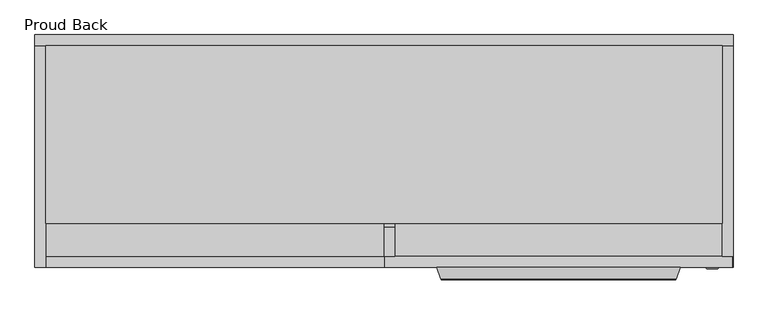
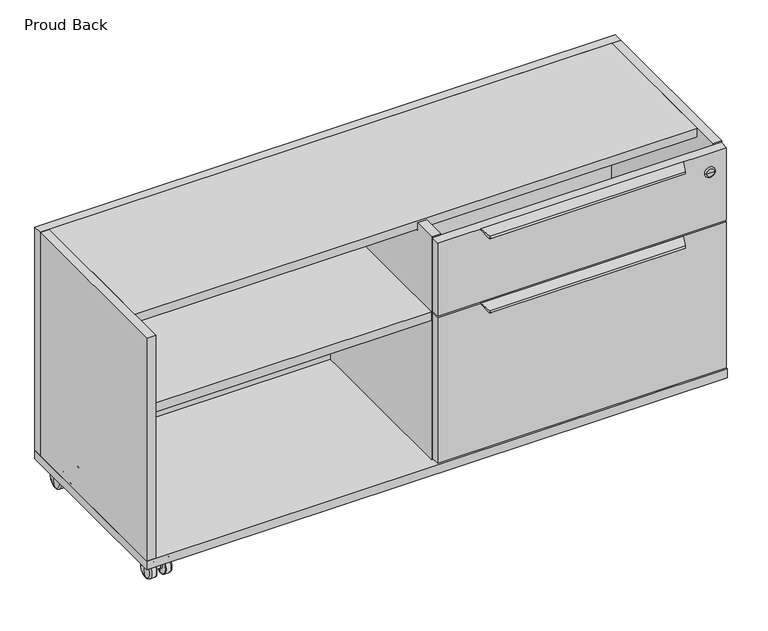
"""IFC4 building model written with IfcOpenShell, lengths in millimetres: furniture geometry, Haworth_BeHold_Modular_MobileCredenza : Proud Back."""

from ifc_helpers import new_model, si_unit, point, frame, frame_2d, origin, place, context, project, spatial, polyline, circle_curve, ellipse_curve, trimmed, segment, composite_curve, outline, extrude, source, transform, mapped, element, save
from ifc_brep_helpers import plane_surface, cylinder_surface, revolved_surface, advanced_brep


def proud_back_b5e9429d(model_context):
    return source(origin(), model_context, "Body", "SolidModel", [
        advanced_brep(
        [(-750.3713166, -461.8252991, 2.8741812), (-750.3713166, -461.8252991, 34.1258208), (-751.97128, -461.8252991, 18.500001), (-746.8682448, -461.8252991, 1.5e-06), (-746.8682448, -461.8252991, 37.0000005), (-736.6629121, -461.8252991, 1.5e-06), (-736.6629121, -461.8252991, 37.0000005), (-735.4722871, -461.8252991, 1.1906265), (-735.4722871, -461.8252991, 35.8093755), (-735.4722871, -461.8252991, 11.3500014), (-735.4722871, -461.8252991, 25.6500006), (-731.9725007, -461.8252991, 11.3500014), (-731.9725007, -461.8252991, 25.6500006), (-731.9725007, -461.8252991, 13.0457396), (-731.9725007, -461.8252991, 23.9542625), (-721.5719727, -461.8252991, 13.0457396), (-721.5719727, -461.8252991, 23.9542625), (-721.5719727, -461.8252991, 11.3500014), (-721.5719727, -461.8252991, 25.6500006), (-718.0721863, -461.8252991, 11.3500014), (-718.0721863, -461.8252991, 25.6500006), (-718.0721863, -461.8252991, 1.1906265), (-718.0721863, -461.8252991, 35.8093755), (-716.8815613, -461.8252991, 1.5e-06), (-716.8815613, -461.8252991, 37.0000005), (-706.6951696, -461.8252991, 1.5e-06), (-706.6951696, -461.8252991, 37.0000005), (-703.167893, -461.8252991, 2.894786), (-703.167893, -461.8252991, 34.105216), (-701.5720307, -461.8252991, 18.500001)],
        [
            (0, 1, circle_curve(frame((-750.3713166, -461.8252991, 18.500001), z_axis=(-1.0, 0.0, 0.0), x_axis=(0.0, 0.0, 1.0)), 15.6258198)),
            (1, 2, circle_curve(frame((-668.791693, -461.8252991, 17.8778751), z_axis=(0.0, -1.0, 0.0), x_axis=(-1.0, 0.0, 0.0)), 83.1819135)),
            (2, 0, circle_curve(frame((-668.791693, -461.8252991, 19.1221269), z_axis=(0.0, -1.0, 0.0), x_axis=(-1.0, 0.0, 0.0)), 83.1819135)),
            (1, 0, circle_curve(frame((-750.3713166, -461.8252991, 18.500001), z_axis=(-1.0, 0.0, 0.0), x_axis=(0.0, 0.0, 1.0)), 15.6258198)),
            (3, 4, circle_curve(frame((-746.8682448, -461.8252991, 18.500001), z_axis=(-1.0, 0.0, 0.0), x_axis=(0.0, 0.0, 1.0)), 18.4999995)),
            (4, 1, circle_curve(frame((-746.8682448, -461.8252991, 33.4281255), z_axis=(0.0, -1.0, 0.0), x_axis=(1.0, 0.0, 0.0)), 3.571875)),
            (0, 3, circle_curve(frame((-746.8682448, -461.8252991, 3.5718765), z_axis=(0.0, -1.0, 0.0), x_axis=(1.0, 0.0, 0.0)), 3.571875)),
            (4, 3, circle_curve(frame((-746.8682448, -461.8252991, 18.500001), z_axis=(-1.0, 0.0, 0.0), x_axis=(0.0, 0.0, 1.0)), 18.4999995)),
            (5, 6, circle_curve(frame((-736.6629121, -461.8252991, 18.500001), z_axis=(-1.0, 0.0, 0.0), x_axis=(0.0, 0.0, 1.0)), 18.4999995)),
            (6, 4),
            (3, 5),
            (6, 5, circle_curve(frame((-736.6629121, -461.8252991, 18.500001), z_axis=(-1.0, 0.0, 0.0), x_axis=(0.0, 0.0, 1.0)), 18.4999995)),
            (7, 8, circle_curve(frame((-735.4722871, -461.8252991, 18.500001), z_axis=(-1.0, 0.0, 0.0), x_axis=(0.0, 0.0, 1.0)), 17.3093745)),
            (8, 6, circle_curve(frame((-736.6629121, -461.8252991, 35.8093755), z_axis=(0.0, -1.0, 0.0), x_axis=(1.0, 0.0, 0.0)), 1.190625)),
            (5, 7, circle_curve(frame((-736.6629121, -461.8252991, 1.1906265), z_axis=(0.0, -1.0, 0.0), x_axis=(1.0, 0.0, 0.0)), 1.190625)),
            (8, 7, circle_curve(frame((-735.4722871, -461.8252991, 18.500001), z_axis=(-1.0, 0.0, 0.0), x_axis=(0.0, 0.0, 1.0)), 17.3093745)),
            (9, 10, circle_curve(frame((-735.4722871, -461.8252991, 18.500001), z_axis=(-1.0, 0.0, 0.0), x_axis=(0.0, 0.0, 1.0)), 7.1499996)),
            (10, 8),
            (7, 9),
            (10, 9, circle_curve(frame((-735.4722871, -461.8252991, 18.500001), z_axis=(-1.0, 0.0, 0.0), x_axis=(0.0, 0.0, 1.0)), 7.1499996)),
            (11, 12, circle_curve(frame((-731.9725007, -461.8252991, 18.500001), z_axis=(-1.0, 0.0, 0.0), x_axis=(0.0, 0.0, 1.0)), 7.1499996)),
            (12, 10),
            (9, 11),
            (12, 11, circle_curve(frame((-731.9725007, -461.8252991, 18.500001), z_axis=(-1.0, 0.0, 0.0), x_axis=(0.0, 0.0, 1.0)), 7.1499996)),
            (13, 14, circle_curve(frame((-731.9725007, -461.8252991, 18.500001), z_axis=(-1.0, 0.0, 0.0), x_axis=(0.0, 0.0, 1.0)), 5.4542615)),
            (14, 12),
            (11, 13),
            (14, 13, circle_curve(frame((-731.9725007, -461.8252991, 18.500001), z_axis=(-1.0, 0.0, 0.0), x_axis=(0.0, 0.0, 1.0)), 5.4542615)),
            (15, 16, circle_curve(frame((-721.5719727, -461.8252991, 18.500001), z_axis=(-1.0, 0.0, 0.0), x_axis=(0.0, 0.0, 1.0)), 5.4542615)),
            (16, 14),
            (13, 15),
            (16, 15, circle_curve(frame((-721.5719727, -461.8252991, 18.500001), z_axis=(-1.0, 0.0, 0.0), x_axis=(0.0, 0.0, 1.0)), 5.4542615)),
            (17, 18, circle_curve(frame((-721.5719727, -461.8252991, 18.500001), z_axis=(-1.0, 0.0, 0.0), x_axis=(0.0, 0.0, 1.0)), 7.1499996)),
            (18, 16),
            (15, 17),
            (18, 17, circle_curve(frame((-721.5719727, -461.8252991, 18.500001), z_axis=(-1.0, 0.0, 0.0), x_axis=(0.0, 0.0, 1.0)), 7.1499996)),
            (19, 20, circle_curve(frame((-718.0721863, -461.8252991, 18.500001), z_axis=(-1.0, 0.0, 0.0), x_axis=(0.0, 0.0, 1.0)), 7.1499996)),
            (20, 18),
            (17, 19),
            (20, 19, circle_curve(frame((-718.0721863, -461.8252991, 18.500001), z_axis=(-1.0, 0.0, 0.0), x_axis=(0.0, 0.0, 1.0)), 7.1499996)),
            (21, 22, circle_curve(frame((-718.0721863, -461.8252991, 18.500001), z_axis=(-1.0, 0.0, 0.0), x_axis=(0.0, 0.0, 1.0)), 17.3093745)),
            (22, 20),
            (19, 21),
            (22, 21, circle_curve(frame((-718.0721863, -461.8252991, 18.500001), z_axis=(-1.0, 0.0, 0.0), x_axis=(0.0, 0.0, 1.0)), 17.3093745)),
            (23, 24, circle_curve(frame((-716.8815613, -461.8252991, 18.500001), z_axis=(-1.0, 0.0, 0.0), x_axis=(0.0, 0.0, 1.0)), 18.4999995)),
            (24, 22, circle_curve(frame((-716.8815613, -461.8252991, 35.8093755), z_axis=(0.0, -1.0, 0.0), x_axis=(1.0, 0.0, 0.0)), 1.190625)),
            (21, 23, circle_curve(frame((-716.8815613, -461.8252991, 1.1906265), z_axis=(0.0, -1.0, 0.0), x_axis=(1.0, 0.0, 0.0)), 1.190625)),
            (24, 23, circle_curve(frame((-716.8815613, -461.8252991, 18.500001), z_axis=(-1.0, 0.0, 0.0), x_axis=(0.0, 0.0, 1.0)), 18.4999995)),
            (25, 26, circle_curve(frame((-706.6951696, -461.8252991, 18.500001), z_axis=(-1.0, 0.0, 0.0), x_axis=(0.0, 0.0, 1.0)), 18.4999995)),
            (26, 24),
            (23, 25),
            (26, 25, circle_curve(frame((-706.6951696, -461.8252991, 18.500001), z_axis=(-1.0, 0.0, 0.0), x_axis=(0.0, 0.0, 1.0)), 18.4999995)),
            (27, 28, circle_curve(frame((-703.167893, -461.8252991, 18.500001), z_axis=(-1.0, 0.0, 0.0), x_axis=(0.0, 0.0, 1.0)), 15.605215)),
            (28, 26, circle_curve(frame((-706.6951696, -461.8252991, 33.4036261), z_axis=(0.0, -1.0, 0.0), x_axis=(1.0, 0.0, 0.0)), 3.5963744)),
            (25, 27, circle_curve(frame((-706.6951696, -461.8252991, 3.5963759), z_axis=(0.0, -1.0, 0.0), x_axis=(1.0, 0.0, 0.0)), 3.5963744)),
            (28, 27, circle_curve(frame((-703.167893, -461.8252991, 18.500001), z_axis=(-1.0, 0.0, 0.0), x_axis=(0.0, 0.0, 1.0)), 15.605215)),
            (29, 28, circle_curve(frame((-784.7516177, -461.8252991, 17.8778751), z_axis=(0.0, -1.0, 0.0), x_axis=(1.0, 0.0, 0.0)), 83.1819135)),
            (27, 29, circle_curve(frame((-784.7516177, -461.8252991, 19.1221269), z_axis=(0.0, -1.0, 0.0), x_axis=(1.0, 0.0, 0.0)), 83.1819135)),
        ],
        [
            revolved_surface(trimmed(ellipse_curve(frame((-668.791693, -461.8252991, 17.8778751), z_axis=(0.0, 1.0, 0.0), x_axis=(-1.0, 0.0, 0.0)), 83.1819135, 83.1819135), [point((-751.97128, -461.8252991, 18.500001))], [point((-750.3713166, -461.8252991, 34.1258208))], True, "CARTESIAN"), (-775.2830707, -461.8252991, 18.500001), (1.0, 0.0, 0.0)),
            revolved_surface(trimmed(ellipse_curve(frame((-746.8682448, -461.8252991, 33.4281255), z_axis=(0.0, 1.0, 0.0), x_axis=(1.0, 0.0, 0.0)), 3.571875, 3.571875), [point((-750.3713166, -461.8252991, 34.1258208))], [point((-746.8682448, -461.8252991, 37.0000005))], True, "CARTESIAN"), (-775.2830707, -461.8252991, 18.500001), (1.0, 0.0, 0.0)),
            cylinder_surface(frame((-775.2830707, -461.8252991, 18.500001), z_axis=(1.0, 0.0, 0.0), x_axis=(0.0, 0.0, 1.0)), 18.4999995),
            revolved_surface(trimmed(ellipse_curve(frame((-736.6629121, -461.8252991, 35.8093755), z_axis=(0.0, 1.0, 0.0), x_axis=(1.0, 0.0, 0.0)), 1.190625, 1.190625), [point((-736.6629121, -461.8252991, 37.0000005))], [point((-735.4722871, -461.8252991, 35.8093755))], True, "CARTESIAN"), (-775.2830707, -461.8252991, 18.500001), (1.0, 0.0, 0.0)),
            plane_surface(frame((-735.4722871, -461.8252991, 18.500001), z_axis=(1.0, 0.0, 0.0), x_axis=(0.0, 0.0, 1.0))),
            cylinder_surface(frame((-775.2830707, -461.8252991, 18.500001), z_axis=(1.0, 0.0, 0.0), x_axis=(0.0, 0.0, 1.0)), 7.1499996),
            plane_surface(frame((-731.9725007, -461.8252991, 18.500001), z_axis=(1.0, 0.0, 0.0), x_axis=(0.0, 0.0, 1.0))),
            cylinder_surface(frame((-775.2830707, -461.8252991, 18.500001), z_axis=(1.0, 0.0, 0.0), x_axis=(0.0, 0.0, 1.0)), 5.4542615),
            plane_surface(frame((-721.5719727, -461.8252991, 18.500001), z_axis=(-1.0, 0.0, 0.0), x_axis=(0.0, 0.0, 1.0))),
            plane_surface(frame((-718.0721863, -461.8252991, 18.500001), z_axis=(-1.0, 0.0, 0.0), x_axis=(0.0, 0.0, 1.0))),
            revolved_surface(trimmed(ellipse_curve(frame((-716.8815613, -461.8252991, 35.8093755), z_axis=(0.0, 1.0, 0.0), x_axis=(1.0, 0.0, 0.0)), 1.190625, 1.190625), [point((-718.0721863, -461.8252991, 35.8093755))], [point((-716.8815613, -461.8252991, 37.0000005))], True, "CARTESIAN"), (-775.2830707, -461.8252991, 18.500001), (1.0, 0.0, 0.0)),
            revolved_surface(trimmed(ellipse_curve(frame((-706.6951696, -461.8252991, 33.4036261), z_axis=(0.0, 1.0, 0.0), x_axis=(1.0, 0.0, 0.0)), 3.5963744, 3.5963744), [point((-706.6951696, -461.8252991, 37.0000005))], [point((-703.167893, -461.8252991, 34.105216))], True, "CARTESIAN"), (-775.2830707, -461.8252991, 18.500001), (1.0, 0.0, 0.0)),
            revolved_surface(trimmed(ellipse_curve(frame((-784.7516177, -461.8252991, 17.8778751), z_axis=(0.0, 1.0, 0.0), x_axis=(1.0, 0.0, 0.0)), 83.1819135, 83.1819135), [point((-703.167893, -461.8252991, 34.105216))], [point((-701.5720307, -461.8252991, 18.500001))], True, "CARTESIAN"), (-775.2830707, -461.8252991, 18.500001), (1.0, 0.0, 0.0)),
        ],
        [
            (0, [[1, 2, 3]]),
            (0, [[4, -3, -2]]),
            (1, [[5, 6, -1, 7]]),
            (1, [[8, -7, -4, -6]]),
            (2, [[9, 10, -5, 11]]),
            (2, [[12, -11, -8, -10]]),
            (3, [[13, 14, -9, 15]]),
            (3, [[16, -15, -12, -14]]),
            (4, [[17, 18, -13, 19]]),
            (4, [[20, -19, -16, -18]]),
            (5, [[21, 22, -17, 23]]),
            (5, [[24, -23, -20, -22]]),
            (6, [[25, 26, -21, 27]]),
            (6, [[28, -27, -24, -26]]),
            (7, [[29, 30, -25, 31]]),
            (7, [[32, -31, -28, -30]]),
            (8, [[33, 34, -29, 35]]),
            (8, [[36, -35, -32, -34]]),
            (5, [[37, 38, -33, 39]]),
            (5, [[40, -39, -36, -38]]),
            (9, [[41, 42, -37, 43]]),
            (9, [[44, -43, -40, -42]]),
            (10, [[45, 46, -41, 47]]),
            (10, [[48, -47, -44, -46]]),
            (2, [[49, 50, -45, 51]]),
            (2, [[52, -51, -48, -50]]),
            (11, [[53, 54, -49, 55]]),
            (11, [[56, -55, -52, -54]]),
            (12, [[57, -53, 58]]),
            (12, [[-58, -56, -57]]),
        ],
    ),
        extrude(outline(composite_curve([segment(trimmed(circle_curve(frame_2d((-706.828299, -109.3696808)), 5.55625), [point((-706.828299, -103.8134308))], [point((-701.272049, -109.3696808))], False, "CARTESIAN"), True, "CONTINUOUS"), segment(polyline([(-701.272049, -109.3696808), (-701.272049, -128.7139717)]), True, "CONTINUOUS"), segment(trimmed(circle_curve(frame_2d((-706.8708092, -128.7139717)), 5.5987602), [point((-701.272049, -128.7139717))], [point((-706.8708092, -134.3127319))], False, "CARTESIAN"), True, "CONTINUOUS"), segment(polyline([(-706.8708092, -134.3127319), (-746.7161744, -134.3127319)]), True, "CONTINUOUS"), segment(trimmed(circle_curve(frame_2d((-746.7161744, -128.7564819)), 5.55625), [point((-746.7161744, -134.3127319))], [point((-752.2724244, -128.7564819))], False, "CARTESIAN"), True, "CONTINUOUS"), segment(polyline([(-752.2724244, -128.7564819), (-752.2724244, -109.3696808)]), True, "CONTINUOUS"), segment(trimmed(circle_curve(frame_2d((-746.7161744, -109.3696808)), 5.55625), [point((-752.2724244, -109.3696808))], [point((-746.7161744, -103.8134308))], False, "CARTESIAN"), True, "CONTINUOUS"), segment(polyline([(-746.7161744, -103.8134308), (-706.828299, -103.8134308)]), True, "CONTINUOUS")], self_intersect=False)), frame((0.0, 0.0, 41.1500016), z_axis=(0.0, 0.0, 1.0), x_axis=(1.0, 0.0, 0.0)), (0.0, 0.0, 1.0), 3.2999984),
        extrude(outline(composite_curve([segment(trimmed(circle_curve(frame_2d((-116.2049225, 10.0187513)), 3.96875), [point((-112.2361725, 10.0187513))], [point((-116.2049225, 6.0500013))], False, "CARTESIAN"), True, "CONTINUOUS"), segment(polyline([(-116.2049225, 6.0500013), (-147.8630676, 6.0500013), (-147.8630676, 22.3915745)]), True, "CONTINUOUS"), segment(trimmed(circle_curve(frame_2d((-106.5147413, 22.3915745)), 41.3483263), [point((-147.8630676, 22.3915745))], [point((-147.745118, 25.5124927))], False, "CARTESIAN"), True, "CONTINUOUS"), segment(polyline([(-147.745118, 25.5124927), (-147.4391605, 29.5544899)]), True, "CONTINUOUS"), segment(trimmed(circle_curve(frame_2d((-145.6233868, 29.4170456)), 1.8209681), [point((-147.4391605, 29.5544899))], [point((-146.9906667, 30.6197387))], False, "CARTESIAN"), True, "CONTINUOUS"), segment(trimmed(circle_curve(frame_2d((-133.2127991, 18.5003868)), 18.3496138), [point((-146.9906667, 30.6197387))], [point((-133.2127991, 36.8500006))], False, "CARTESIAN"), True, "CONTINUOUS"), segment(polyline([(-133.2127991, 36.8500006), (-127.1631683, 36.8500006), (-127.1631683, 32.8500017), (-112.2361725, 32.8500017), (-112.2361725, 10.0187513)]), True, "CONTINUOUS")], self_intersect=False)), frame((-733.7712281, 0.0, 0.0), z_axis=(1.0, 0.0, 0.0), x_axis=(0.0, 1.0, 0.0)), (0.0, 0.0, 1.0), 13.9991455),
        advanced_brep(
        [(-731.4457886, -119.0625, 32.8500017), (-722.097522, -119.0625, 32.8500017), (-726.7716553, -119.0625, 32.8500017), (-731.4457886, -119.0625, 34.6500009), (-722.097522, -119.0625, 34.6500009), (-732.995694, -119.0625, 34.6500009), (-720.5476166, -119.0625, 34.6500009), (-733.842154, -119.0625, 38.6499997), (-719.7011567, -119.0625, 38.6499997), (-731.2713807, -119.0625, 38.6499997), (-722.27193, -119.0625, 38.6499997), (-737.770984, -119.0625, 41.1500016), (-715.7723267, -119.0625, 41.1500016), (-726.7716553, -119.0625, 41.1500016)],
        [
            (0, 1, circle_curve(frame((-726.7716553, -119.0625, 32.8500017), z_axis=(0.0, 0.0, -1.0), x_axis=(1.0, 0.0, 0.0)), 4.6741333)),
            (1, 2),
            (2, 0),
            (1, 0, circle_curve(frame((-726.7716553, -119.0625, 32.8500017), z_axis=(0.0, 0.0, -1.0), x_axis=(1.0, 0.0, 0.0)), 4.6741333)),
            (3, 4, circle_curve(frame((-726.7716553, -119.0625, 34.6500009), z_axis=(0.0, 0.0, -1.0), x_axis=(1.0, 0.0, 0.0)), 4.6741333)),
            (4, 1),
            (0, 3),
            (4, 3, circle_curve(frame((-726.7716553, -119.0625, 34.6500009), z_axis=(0.0, 0.0, -1.0), x_axis=(1.0, 0.0, 0.0)), 4.6741333)),
            (5, 6, circle_curve(frame((-726.7716553, -119.0625, 34.6500009), z_axis=(0.0, 0.0, -1.0), x_axis=(1.0, 0.0, 0.0)), 6.2240387)),
            (6, 4),
            (3, 5),
            (6, 5, circle_curve(frame((-726.7716553, -119.0625, 34.6500009), z_axis=(0.0, 0.0, -1.0), x_axis=(1.0, 0.0, 0.0)), 6.2240387)),
            (7, 8, circle_curve(frame((-726.7716553, -119.0625, 38.6499997), z_axis=(0.0, 0.0, -1.0), x_axis=(1.0, 0.0, 0.0)), 7.0704987)),
            (8, 6, circle_curve(frame((-722.2700095, -119.0625, 37.1040464), z_axis=(0.0, 1.0, 0.0), x_axis=(1.0, 0.0, 0.0)), 2.9981622)),
            (5, 7, circle_curve(frame((-731.2733011, -119.0625, 37.1040464), z_axis=(0.0, 1.0, 0.0), x_axis=(-1.0, 0.0, 0.0)), 2.9981622)),
            (8, 7, circle_curve(frame((-726.7716553, -119.0625, 38.6499997), z_axis=(0.0, 0.0, -1.0), x_axis=(1.0, 0.0, 0.0)), 7.0704987)),
            (9, 10, circle_curve(frame((-726.7716553, -119.0625, 38.6499997), z_axis=(0.0, 0.0, -1.0), x_axis=(1.0, 0.0, 0.0)), 4.4997253)),
            (10, 8),
            (7, 9),
            (10, 9, circle_curve(frame((-726.7716553, -119.0625, 38.6499997), z_axis=(0.0, 0.0, -1.0), x_axis=(1.0, 0.0, 0.0)), 4.4997253)),
            (11, 12, circle_curve(frame((-726.7716553, -119.0625, 41.1500016), z_axis=(0.0, 0.0, -1.0), x_axis=(1.0, 0.0, 0.0)), 10.9993286)),
            (12, 10),
            (9, 11),
            (12, 11, circle_curve(frame((-726.7716553, -119.0625, 41.1500016), z_axis=(0.0, 0.0, -1.0), x_axis=(1.0, 0.0, 0.0)), 10.9993286)),
            (13, 12),
            (11, 13),
        ],
        [
            plane_surface(frame((-726.7716553, -119.0625, 32.8500017), z_axis=(0.0, 0.0, -1.0), x_axis=(1.0, 0.0, 0.0))),
            cylinder_surface(frame((-726.7716553, -119.0625, 53.2629664), z_axis=(0.0, 0.0, 1.0), x_axis=(1.0, 0.0, 0.0)), 4.6741333),
            plane_surface(frame((-726.7716553, -119.0625, 34.6500009), z_axis=(0.0, 0.0, -1.0), x_axis=(1.0, 0.0, 0.0))),
            revolved_surface(trimmed(ellipse_curve(frame((-722.2700095, -119.0625, 37.1040464), z_axis=(0.0, -1.0, 0.0), x_axis=(1.0, 0.0, 0.0)), 2.9981622, 2.9981622), [point((-720.5476166, -119.0625, 34.6500009))], [point((-719.7011567, -119.0625, 38.6499997))], True, "CARTESIAN"), (-726.7716553, -119.0625, 53.2629664), (0.0, 0.0, 1.0)),
            plane_surface(frame((-726.7716553, -119.0625, 38.6499997), z_axis=(0.0, 0.0, 1.0), x_axis=(1.0, 0.0, 0.0))),
            revolved_surface(polyline([(-722.27193, -119.0625, 38.6499997), (-715.7723267, -119.0625, 41.1500016)]), (-726.7716553, -119.0625, 53.2629664), (0.0, 0.0, 1.0)),
            plane_surface(frame((-726.7716553, -119.0625, 41.1500016), z_axis=(0.0, 0.0, 1.0), x_axis=(1.0, 0.0, 0.0))),
        ],
        [
            (0, [[1, 2, 3]]),
            (0, [[4, -3, -2]]),
            (1, [[5, 6, -1, 7]]),
            (1, [[8, -7, -4, -6]]),
            (2, [[9, 10, -5, 11]]),
            (2, [[12, -11, -8, -10]]),
            (3, [[13, 14, -9, 15]]),
            (3, [[16, -15, -12, -14]]),
            (4, [[17, 18, -13, 19]]),
            (4, [[20, -19, -16, -18]]),
            (5, [[21, 22, -17, 23]]),
            (5, [[24, -23, -20, -22]]),
            (6, [[25, -21, 26]]),
            (6, [[-26, -24, -25]]),
        ],
    ),
        advanced_brep(
        [(-750.3713166, -133.2127991, 2.8741812), (-750.3713166, -133.2127991, 34.1258208), (-751.97128, -133.2127991, 18.500001), (-746.8682448, -133.2127991, 1.5e-06), (-746.8682448, -133.2127991, 37.0000005), (-736.6629121, -133.2127991, 1.5e-06), (-736.6629121, -133.2127991, 37.0000005), (-735.4722871, -133.2127991, 1.1906265), (-735.4722871, -133.2127991, 35.8093755), (-735.4722871, -133.2127991, 11.3500014), (-735.4722871, -133.2127991, 25.6500006), (-731.9725007, -133.2127991, 11.3500014), (-731.9725007, -133.2127991, 25.6500006), (-731.9725007, -133.2127991, 13.0457396), (-731.9725007, -133.2127991, 23.9542625), (-721.5719727, -133.2127991, 13.0457396), (-721.5719727, -133.2127991, 23.9542625), (-721.5719727, -133.2127991, 11.3500014), (-721.5719727, -133.2127991, 25.6500006), (-718.0721863, -133.2127991, 11.3500014), (-718.0721863, -133.2127991, 25.6500006), (-718.0721863, -133.2127991, 1.1906265), (-718.0721863, -133.2127991, 35.8093755), (-716.8815613, -133.2127991, 1.5e-06), (-716.8815613, -133.2127991, 37.0000005), (-706.6951696, -133.2127991, 1.5e-06), (-706.6951696, -133.2127991, 37.0000005), (-703.167893, -133.2127991, 2.894786), (-703.167893, -133.2127991, 34.105216), (-701.5720307, -133.2127991, 18.500001)],
        [
            (0, 1, circle_curve(frame((-750.3713166, -133.2127991, 18.500001), z_axis=(-1.0, 0.0, 0.0), x_axis=(0.0, 0.0, 1.0)), 15.6258198)),
            (1, 2, circle_curve(frame((-668.791693, -133.2127991, 17.8778751), z_axis=(0.0, -1.0, 0.0), x_axis=(-1.0, 0.0, 0.0)), 83.1819135)),
            (2, 0, circle_curve(frame((-668.791693, -133.2127991, 19.1221269), z_axis=(0.0, -1.0, 0.0), x_axis=(-1.0, 0.0, 0.0)), 83.1819135)),
            (1, 0, circle_curve(frame((-750.3713166, -133.2127991, 18.500001), z_axis=(-1.0, 0.0, 0.0), x_axis=(0.0, 0.0, 1.0)), 15.6258198)),
            (3, 4, circle_curve(frame((-746.8682448, -133.2127991, 18.500001), z_axis=(-1.0, 0.0, 0.0), x_axis=(0.0, 0.0, 1.0)), 18.4999995)),
            (4, 1, circle_curve(frame((-746.8682448, -133.2127991, 33.4281255), z_axis=(0.0, -1.0, 0.0), x_axis=(1.0, 0.0, 0.0)), 3.571875)),
            (0, 3, circle_curve(frame((-746.8682448, -133.2127991, 3.5718765), z_axis=(0.0, -1.0, 0.0), x_axis=(1.0, 0.0, 0.0)), 3.571875)),
            (4, 3, circle_curve(frame((-746.8682448, -133.2127991, 18.500001), z_axis=(-1.0, 0.0, 0.0), x_axis=(0.0, 0.0, 1.0)), 18.4999995)),
            (5, 6, circle_curve(frame((-736.6629121, -133.2127991, 18.500001), z_axis=(-1.0, 0.0, 0.0), x_axis=(0.0, 0.0, 1.0)), 18.4999995)),
            (6, 4),
            (3, 5),
            (6, 5, circle_curve(frame((-736.6629121, -133.2127991, 18.500001), z_axis=(-1.0, 0.0, 0.0), x_axis=(0.0, 0.0, 1.0)), 18.4999995)),
            (7, 8, circle_curve(frame((-735.4722871, -133.2127991, 18.500001), z_axis=(-1.0, 0.0, 0.0), x_axis=(0.0, 0.0, 1.0)), 17.3093745)),
            (8, 6, circle_curve(frame((-736.6629121, -133.2127991, 35.8093755), z_axis=(0.0, -1.0, 0.0), x_axis=(1.0, 0.0, 0.0)), 1.190625)),
            (5, 7, circle_curve(frame((-736.6629121, -133.2127991, 1.1906265), z_axis=(0.0, -1.0, 0.0), x_axis=(1.0, 0.0, 0.0)), 1.190625)),
            (8, 7, circle_curve(frame((-735.4722871, -133.2127991, 18.500001), z_axis=(-1.0, 0.0, 0.0), x_axis=(0.0, 0.0, 1.0)), 17.3093745)),
            (9, 10, circle_curve(frame((-735.4722871, -133.2127991, 18.500001), z_axis=(-1.0, 0.0, 0.0), x_axis=(0.0, 0.0, 1.0)), 7.1499996)),
            (10, 8),
            (7, 9),
            (10, 9, circle_curve(frame((-735.4722871, -133.2127991, 18.500001), z_axis=(-1.0, 0.0, 0.0), x_axis=(0.0, 0.0, 1.0)), 7.1499996)),
            (11, 12, circle_curve(frame((-731.9725007, -133.2127991, 18.500001), z_axis=(-1.0, 0.0, 0.0), x_axis=(0.0, 0.0, 1.0)), 7.1499996)),
            (12, 10),
            (9, 11),
            (12, 11, circle_curve(frame((-731.9725007, -133.2127991, 18.500001), z_axis=(-1.0, 0.0, 0.0), x_axis=(0.0, 0.0, 1.0)), 7.1499996)),
            (13, 14, circle_curve(frame((-731.9725007, -133.2127991, 18.500001), z_axis=(-1.0, 0.0, 0.0), x_axis=(0.0, 0.0, 1.0)), 5.4542615)),
            (14, 12),
            (11, 13),
            (14, 13, circle_curve(frame((-731.9725007, -133.2127991, 18.500001), z_axis=(-1.0, 0.0, 0.0), x_axis=(0.0, 0.0, 1.0)), 5.4542615)),
            (15, 16, circle_curve(frame((-721.5719727, -133.2127991, 18.500001), z_axis=(-1.0, 0.0, 0.0), x_axis=(0.0, 0.0, 1.0)), 5.4542615)),
            (16, 14),
            (13, 15),
            (16, 15, circle_curve(frame((-721.5719727, -133.2127991, 18.500001), z_axis=(-1.0, 0.0, 0.0), x_axis=(0.0, 0.0, 1.0)), 5.4542615)),
            (17, 18, circle_curve(frame((-721.5719727, -133.2127991, 18.500001), z_axis=(-1.0, 0.0, 0.0), x_axis=(0.0, 0.0, 1.0)), 7.1499996)),
            (18, 16),
            (15, 17),
            (18, 17, circle_curve(frame((-721.5719727, -133.2127991, 18.500001), z_axis=(-1.0, 0.0, 0.0), x_axis=(0.0, 0.0, 1.0)), 7.1499996)),
            (19, 20, circle_curve(frame((-718.0721863, -133.2127991, 18.500001), z_axis=(-1.0, 0.0, 0.0), x_axis=(0.0, 0.0, 1.0)), 7.1499996)),
            (20, 18),
            (17, 19),
            (20, 19, circle_curve(frame((-718.0721863, -133.2127991, 18.500001), z_axis=(-1.0, 0.0, 0.0), x_axis=(0.0, 0.0, 1.0)), 7.1499996)),
            (21, 22, circle_curve(frame((-718.0721863, -133.2127991, 18.500001), z_axis=(-1.0, 0.0, 0.0), x_axis=(0.0, 0.0, 1.0)), 17.3093745)),
            (22, 20),
            (19, 21),
            (22, 21, circle_curve(frame((-718.0721863, -133.2127991, 18.500001), z_axis=(-1.0, 0.0, 0.0), x_axis=(0.0, 0.0, 1.0)), 17.3093745)),
            (23, 24, circle_curve(frame((-716.8815613, -133.2127991, 18.500001), z_axis=(-1.0, 0.0, 0.0), x_axis=(0.0, 0.0, 1.0)), 18.4999995)),
            (24, 22, circle_curve(frame((-716.8815613, -133.2127991, 35.8093755), z_axis=(0.0, -1.0, 0.0), x_axis=(1.0, 0.0, 0.0)), 1.190625)),
            (21, 23, circle_curve(frame((-716.8815613, -133.2127991, 1.1906265), z_axis=(0.0, -1.0, 0.0), x_axis=(1.0, 0.0, 0.0)), 1.190625)),
            (24, 23, circle_curve(frame((-716.8815613, -133.2127991, 18.500001), z_axis=(-1.0, 0.0, 0.0), x_axis=(0.0, 0.0, 1.0)), 18.4999995)),
            (25, 26, circle_curve(frame((-706.6951696, -133.2127991, 18.500001), z_axis=(-1.0, 0.0, 0.0), x_axis=(0.0, 0.0, 1.0)), 18.4999995)),
            (26, 24),
            (23, 25),
            (26, 25, circle_curve(frame((-706.6951696, -133.2127991, 18.500001), z_axis=(-1.0, 0.0, 0.0), x_axis=(0.0, 0.0, 1.0)), 18.4999995)),
            (27, 28, circle_curve(frame((-703.167893, -133.2127991, 18.500001), z_axis=(-1.0, 0.0, 0.0), x_axis=(0.0, 0.0, 1.0)), 15.605215)),
            (28, 26, circle_curve(frame((-706.6951696, -133.2127991, 33.4036261), z_axis=(0.0, -1.0, 0.0), x_axis=(1.0, 0.0, 0.0)), 3.5963744)),
            (25, 27, circle_curve(frame((-706.6951696, -133.2127991, 3.5963759), z_axis=(0.0, -1.0, 0.0), x_axis=(1.0, 0.0, 0.0)), 3.5963744)),
            (28, 27, circle_curve(frame((-703.167893, -133.2127991, 18.500001), z_axis=(-1.0, 0.0, 0.0), x_axis=(0.0, 0.0, 1.0)), 15.605215)),
            (29, 28, circle_curve(frame((-784.7516177, -133.2127991, 17.8778751), z_axis=(0.0, -1.0, 0.0), x_axis=(1.0, 0.0, 0.0)), 83.1819135)),
            (27, 29, circle_curve(frame((-784.7516177, -133.2127991, 19.1221269), z_axis=(0.0, -1.0, 0.0), x_axis=(1.0, 0.0, 0.0)), 83.1819135)),
        ],
        [
            revolved_surface(trimmed(ellipse_curve(frame((-668.791693, -133.2127991, 17.8778751), z_axis=(0.0, 1.0, 0.0), x_axis=(-1.0, 0.0, 0.0)), 83.1819135, 83.1819135), [point((-751.97128, -133.2127991, 18.500001))], [point((-750.3713166, -133.2127991, 34.1258208))], True, "CARTESIAN"), (-775.2830707, -133.2127991, 18.500001), (1.0, 0.0, 0.0)),
            revolved_surface(trimmed(ellipse_curve(frame((-746.8682448, -133.2127991, 33.4281255), z_axis=(0.0, 1.0, 0.0), x_axis=(1.0, 0.0, 0.0)), 3.571875, 3.571875), [point((-750.3713166, -133.2127991, 34.1258208))], [point((-746.8682448, -133.2127991, 37.0000005))], True, "CARTESIAN"), (-775.2830707, -133.2127991, 18.500001), (1.0, 0.0, 0.0)),
            cylinder_surface(frame((-775.2830707, -133.2127991, 18.500001), z_axis=(1.0, 0.0, 0.0), x_axis=(0.0, 0.0, 1.0)), 18.4999995),
            revolved_surface(trimmed(ellipse_curve(frame((-736.6629121, -133.2127991, 35.8093755), z_axis=(0.0, 1.0, 0.0), x_axis=(1.0, 0.0, 0.0)), 1.190625, 1.190625), [point((-736.6629121, -133.2127991, 37.0000005))], [point((-735.4722871, -133.2127991, 35.8093755))], True, "CARTESIAN"), (-775.2830707, -133.2127991, 18.500001), (1.0, 0.0, 0.0)),
            plane_surface(frame((-735.4722871, -133.2127991, 18.500001), z_axis=(1.0, 0.0, 0.0), x_axis=(0.0, 0.0, 1.0))),
            cylinder_surface(frame((-775.2830707, -133.2127991, 18.500001), z_axis=(1.0, 0.0, 0.0), x_axis=(0.0, 0.0, 1.0)), 7.1499996),
            plane_surface(frame((-731.9725007, -133.2127991, 18.500001), z_axis=(1.0, 0.0, 0.0), x_axis=(0.0, 0.0, 1.0))),
            cylinder_surface(frame((-775.2830707, -133.2127991, 18.500001), z_axis=(1.0, 0.0, 0.0), x_axis=(0.0, 0.0, 1.0)), 5.4542615),
            plane_surface(frame((-721.5719727, -133.2127991, 18.500001), z_axis=(-1.0, 0.0, 0.0), x_axis=(0.0, 0.0, 1.0))),
            plane_surface(frame((-718.0721863, -133.2127991, 18.500001), z_axis=(-1.0, 0.0, 0.0), x_axis=(0.0, 0.0, 1.0))),
            revolved_surface(trimmed(ellipse_curve(frame((-716.8815613, -133.2127991, 35.8093755), z_axis=(0.0, 1.0, 0.0), x_axis=(1.0, 0.0, 0.0)), 1.190625, 1.190625), [point((-718.0721863, -133.2127991, 35.8093755))], [point((-716.8815613, -133.2127991, 37.0000005))], True, "CARTESIAN"), (-775.2830707, -133.2127991, 18.500001), (1.0, 0.0, 0.0)),
            revolved_surface(trimmed(ellipse_curve(frame((-706.6951696, -133.2127991, 33.4036261), z_axis=(0.0, 1.0, 0.0), x_axis=(1.0, 0.0, 0.0)), 3.5963744, 3.5963744), [point((-706.6951696, -133.2127991, 37.0000005))], [point((-703.167893, -133.2127991, 34.105216))], True, "CARTESIAN"), (-775.2830707, -133.2127991, 18.500001), (1.0, 0.0, 0.0)),
            revolved_surface(trimmed(ellipse_curve(frame((-784.7516177, -133.2127991, 17.8778751), z_axis=(0.0, 1.0, 0.0), x_axis=(1.0, 0.0, 0.0)), 83.1819135, 83.1819135), [point((-703.167893, -133.2127991, 34.105216))], [point((-701.5720307, -133.2127991, 18.500001))], True, "CARTESIAN"), (-775.2830707, -133.2127991, 18.500001), (1.0, 0.0, 0.0)),
        ],
        [
            (0, [[1, 2, 3]]),
            (0, [[4, -3, -2]]),
            (1, [[5, 6, -1, 7]]),
            (1, [[8, -7, -4, -6]]),
            (2, [[9, 10, -5, 11]]),
            (2, [[12, -11, -8, -10]]),
            (3, [[13, 14, -9, 15]]),
            (3, [[16, -15, -12, -14]]),
            (4, [[17, 18, -13, 19]]),
            (4, [[20, -19, -16, -18]]),
            (5, [[21, 22, -17, 23]]),
            (5, [[24, -23, -20, -22]]),
            (6, [[25, 26, -21, 27]]),
            (6, [[28, -27, -24, -26]]),
            (7, [[29, 30, -25, 31]]),
            (7, [[32, -31, -28, -30]]),
            (8, [[33, 34, -29, 35]]),
            (8, [[36, -35, -32, -34]]),
            (5, [[37, 38, -33, 39]]),
            (5, [[40, -39, -36, -38]]),
            (9, [[41, 42, -37, 43]]),
            (9, [[44, -43, -40, -42]]),
            (10, [[45, 46, -41, 47]]),
            (10, [[48, -47, -44, -46]]),
            (2, [[49, 50, -45, 51]]),
            (2, [[52, -51, -48, -50]]),
            (11, [[53, 54, -49, 55]]),
            (11, [[56, -55, -52, -54]]),
            (12, [[57, -53, 58]]),
            (12, [[-58, -56, -57]]),
        ],
    ),
        advanced_brep(
        [(-64.7841553, -495.3, 554.2279922), (360.6658447, -495.3, 554.2279922), (354.0608973, -513.44585, 544.0887354), (-58.179208, -513.44585, 544.0887354), (-64.7841553, -495.3, 555.625), (360.6658447, -495.3, 555.625), (-57.4287884, -515.5074865, 548.7098982), (353.3104778, -515.5074865, 548.7098982)],
        [
            (0, 1),
            (1, 2),
            (2, 3),
            (3, 0),
            (0, 4),
            (4, 5),
            (5, 1),
            (4, 6),
            (6, 7),
            (7, 5),
            (2, 7, ellipse_curve(frame((353.60986, -514.6849901, 546.3063783), z_axis=(-0.9396859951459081, 0.3420383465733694, 0.0), x_axis=(0.34203834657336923, 0.9396859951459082, 0.0)), 2.7034093, 2.5403559)),
            (6, 3, ellipse_curve(frame((-57.7281707, -514.6849901, 546.3063783), z_axis=(0.9396859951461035, 0.34203834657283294, 0.0), x_axis=(0.3420383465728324, -0.9396859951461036, 0.0)), 2.7034093, 2.5403559)),
        ],
        [
            plane_surface(frame((360.6658447, -513.44585, 544.0887354), z_axis=(0.0, 0.4877820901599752, -0.8729654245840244), x_axis=(-1.0, 0.0, 0.0))),
            plane_surface(frame((360.6658447, -495.3, 554.2279922), z_axis=(0.0, 1.0, 0.0), x_axis=(-1.0, 0.0, 0.0))),
            plane_surface(frame((360.6658447, -495.3, 555.625), z_axis=(0.0, -0.32377211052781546, 0.9461350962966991), x_axis=(-1.0, 0.0, 0.0))),
            cylinder_surface(frame((360.6658447, -514.6849901, 546.3063783), z_axis=(1.0, 0.0, 0.0), x_axis=(0.0, -1.0, 0.0)), 2.5403559),
            plane_surface(frame((-56.2128322, -518.8480975, 568.325), z_axis=(-0.9396859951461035, -0.34203834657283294, 0.0), x_axis=(0.0, 0.0, -1.0))),
            plane_surface(frame((360.6658447, -495.3, 568.325), z_axis=(0.9396859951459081, -0.3420383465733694, 0.0), x_axis=(0.0, 0.0, -1.0))),
        ],
        [
            (0, [[1, 2, 3, 4]]),
            (1, [[-1, 5, 6, 7]]),
            (2, [[-6, 8, 9, 10]]),
            (3, [[-3, 11, -9, 12]]),
            (4, [[-4, -12, -8, -5]]),
            (5, [[-2, -7, -10, -11]]),
        ],
    ),
        advanced_brep(
        [(408.2892944, -498.4742249, 513.55625), (424.167395, -498.4742249, 513.55625), (416.2283447, -498.4742249, 513.55625), (405.1150695, -495.3, 513.55625), (427.3416198, -495.3, 513.55625), (416.2283447, -495.3, 513.55625)],
        [
            (0, 1, circle_curve(frame((416.2283447, -498.4742249, 513.55625), z_axis=(0.0, -1.0, 0.0), x_axis=(1.0, 0.0, 0.0)), 7.9390503)),
            (1, 2),
            (2, 0),
            (1, 0, circle_curve(frame((416.2283447, -498.4742249, 513.55625), z_axis=(0.0, -1.0, 0.0), x_axis=(1.0, 0.0, 0.0)), 7.9390503)),
            (3, 4, circle_curve(frame((416.2283447, -495.3, 513.55625), z_axis=(0.0, -1.0, 0.0), x_axis=(1.0, 0.0, 0.0)), 11.1132751)),
            (4, 1, circle_curve(frame((424.167395, -495.3, 513.55625), z_axis=(0.0, 0.0, -1.0), x_axis=(-1.0, 0.0, 0.0)), 3.1742249)),
            (0, 3, circle_curve(frame((408.2892944, -495.3, 513.55625), z_axis=(0.0, 0.0, -1.0), x_axis=(1.0, 0.0, 0.0)), 3.1742249)),
            (4, 3, circle_curve(frame((416.2283447, -495.3, 513.55625), z_axis=(0.0, -1.0, 0.0), x_axis=(1.0, 0.0, 0.0)), 11.1132751)),
            (5, 4),
            (3, 5),
        ],
        [
            plane_surface(frame((416.2283447, -498.4742249, 513.55625), z_axis=(0.0, -1.0, 0.0), x_axis=(1.0, 0.0, 0.0))),
            revolved_surface(trimmed(ellipse_curve(frame((424.167395, -495.3, 513.55625), z_axis=(0.0, 0.0, 1.0), x_axis=(-1.0, 0.0, 0.0)), 3.1742249, 3.1742249), [point((424.167395, -498.4742249, 513.55625))], [point((427.3416198, -495.3, 513.55625))], True, "CARTESIAN"), (416.2283447, -481.3109205, 513.55625), (0.0, 1.0, 0.0)),
            plane_surface(frame((416.2283447, -495.3, 513.55625), z_axis=(0.0, 1.0, 0.0), x_axis=(1.0, 0.0, 0.0))),
        ],
        [
            (0, [[1, 2, 3]]),
            (0, [[4, -3, -2]]),
            (1, [[5, 6, -1, 7]]),
            (1, [[8, -7, -4, -6]]),
            (2, [[9, -5, 10]]),
            (2, [[-10, -8, -9]]),
        ],
    ),
        extrude(outline(polyline([(-155.2716553, -476.25), (451.1533447, -476.25), (451.1533447, -495.3), (-155.2716553, -495.3), (-155.2716553, -476.25)])), frame((0.0, 0.0, 393.7), z_axis=(0.0, 0.0, 1.0), x_axis=(1.0, 0.0, 0.0)), (0.0, 0.0, 1.0), 161.925),
        advanced_brep(
        [(-64.7841553, -495.3, 389.1279922), (360.6658447, -495.3, 389.1279922), (354.0608973, -513.44585, 378.9887354), (-58.179208, -513.44585, 378.9887354), (-64.7841553, -495.3, 390.525), (360.6658447, -495.3, 390.525), (-57.4287884, -515.5074865, 383.6098982), (353.3104778, -515.5074865, 383.6098982)],
        [
            (0, 1),
            (1, 2),
            (2, 3),
            (3, 0),
            (0, 4),
            (4, 5),
            (5, 1),
            (4, 6),
            (6, 7),
            (7, 5),
            (2, 7, ellipse_curve(frame((353.60986, -514.6849901, 381.2063783), z_axis=(-0.9396859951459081, 0.3420383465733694, 0.0), x_axis=(0.34203834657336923, 0.9396859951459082, 0.0)), 2.7034093, 2.5403559)),
            (6, 3, ellipse_curve(frame((-57.7281707, -514.6849901, 381.2063783), z_axis=(0.9396859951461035, 0.34203834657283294, 0.0), x_axis=(0.3420383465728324, -0.9396859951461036, 0.0)), 2.7034093, 2.5403559)),
        ],
        [
            plane_surface(frame((360.6658447, -513.44585, 378.9887354), z_axis=(0.0, 0.4877820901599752, -0.8729654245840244), x_axis=(-1.0, 0.0, 0.0))),
            plane_surface(frame((360.6658447, -495.3, 389.1279922), z_axis=(0.0, 1.0, 0.0), x_axis=(-1.0, 0.0, 0.0))),
            plane_surface(frame((360.6658447, -495.3, 390.525), z_axis=(0.0, -0.32377211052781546, 0.9461350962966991), x_axis=(-1.0, 0.0, 0.0))),
            cylinder_surface(frame((360.6658447, -514.6849901, 381.2063783), z_axis=(1.0, 0.0, 0.0), x_axis=(0.0, -1.0, 0.0)), 2.5403559),
            plane_surface(frame((-56.2128322, -518.8480975, 403.225), z_axis=(-0.9396859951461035, -0.34203834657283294, 0.0), x_axis=(0.0, 0.0, -1.0))),
            plane_surface(frame((360.6658447, -495.3, 403.225), z_axis=(0.9396859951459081, -0.3420383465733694, 0.0), x_axis=(0.0, 0.0, -1.0))),
        ],
        [
            (0, [[1, 2, 3, 4]]),
            (1, [[-1, 5, 6, 7]]),
            (2, [[-6, 8, 9, 10]]),
            (3, [[-3, 11, -9, 12]]),
            (4, [[-4, -12, -8, -5]]),
            (5, [[-2, -7, -10, -11]]),
        ],
    ),
        extrude(outline(polyline([(-155.2716553, -476.25), (451.1533447, -476.25), (451.1533447, -495.3), (-155.2716553, -495.3), (-155.2716553, -476.25)])), frame((0.0, 0.0, 66.675), z_axis=(0.0, 0.0, 1.0), x_axis=(1.0, 0.0, 0.0)), (0.0, 0.0, 1.0), 323.85),
        extrude(outline(polyline([(-425.45, 539.75), (-107.95, 539.75), (-107.95, 63.5), (-476.25, 63.5), (-476.25, 558.8), (-425.45, 558.8), (-425.45, 539.75)])), frame((-156.8591553, 0.0, 0.0), z_axis=(1.0, 0.0, 0.0), x_axis=(0.0, 1.0, 0.0)), (0.0, 0.0, 1.0), 19.05),
        extrude(outline(polyline([(-156.8591553, -107.95), (-156.8591553, -476.25), (-747.4091553, -476.25), (-747.4091553, -107.95), (-156.8591553, -107.95)])), frame((0.0, 0.0, 373.0625), z_axis=(0.0, 0.0, 1.0), x_axis=(1.0, 0.0, 0.0)), (0.0, 0.0, 1.0), 19.05),
        extrude(outline(polyline([(433.6908447, -107.95), (433.6908447, -419.1), (-747.4091553, -419.1), (-747.4091553, -107.95), (433.6908447, -107.95)])), frame((0.0, 0.0, 539.75), z_axis=(0.0, 0.0, 1.0), x_axis=(1.0, 0.0, 0.0)), (0.0, 0.0, 1.0), 19.05),
        extrude(outline(polyline([(452.7408447, -107.95), (-766.4591553, -107.95), (-766.4591553, -88.9), (452.7408447, -88.9), (452.7408447, -107.95)])), frame((0.0, 0.0, 63.5), z_axis=(0.0, 0.0, 1.0), x_axis=(1.0, 0.0, 0.0)), (0.0, 0.0, 1.0), 495.3),
        extrude(outline(polyline([(452.7408447, -107.95), (452.7408447, -476.25), (433.6908447, -476.25), (433.6908447, -107.95), (452.7408447, -107.95)])), frame((0.0, 0.0, 63.5), z_axis=(0.0, 0.0, 1.0), x_axis=(1.0, 0.0, 0.0)), (0.0, 0.0, 1.0), 495.3),
        extrude(outline(polyline([(-766.4591553, -495.3), (-766.4591553, -107.95), (-747.4091553, -107.95), (-747.4091553, -495.3), (-766.4591553, -495.3)])), frame((0.0, 0.0, 63.5), z_axis=(0.0, 0.0, 1.0), x_axis=(1.0, 0.0, 0.0)), (0.0, 0.0, 1.0), 495.3),
        extrude(outline(polyline([(452.7408447, -88.9), (452.7408447, -495.3), (-766.4591553, -495.3), (-766.4591553, -88.9), (452.7408447, -88.9)])), frame((0.0, 0.0, 44.45), z_axis=(0.0, 0.0, 1.0), x_axis=(1.0, 0.0, 0.0)), (0.0, 0.0, 1.0), 19.05),
    ])


if __name__ == "__main__":
    model = new_model("IFC4")
    model_context = context("Model", 3, world=origin())
    ifc_project = project(units=[si_unit("LENGTHUNIT", "METRE", prefix="MILLI")], contexts=[model_context])
    site = spatial("IfcSite", under=ifc_project)
    building = spatial("IfcBuilding", under=site)
    placement = place(None, origin())
    proud_back_shape = proud_back_b5e9429d(model_context)
    element("IfcFurniture", 1, ObjectType="Haworth_BeHold_Modular_MobileCredenza : Proud Back", at=placement, inside=building, context=model_context, shape_type="MappedRepresentation", body=[
        mapped(proud_back_shape, transform((0.0, 0.0, 0.0), x_axis=(1.0, 0.0, 0.0), y_axis=(0.0, 1.0, 0.0), z_axis=(0.0, 0.0, 1.0))),
    ])
    save(model, "model.ifc")
